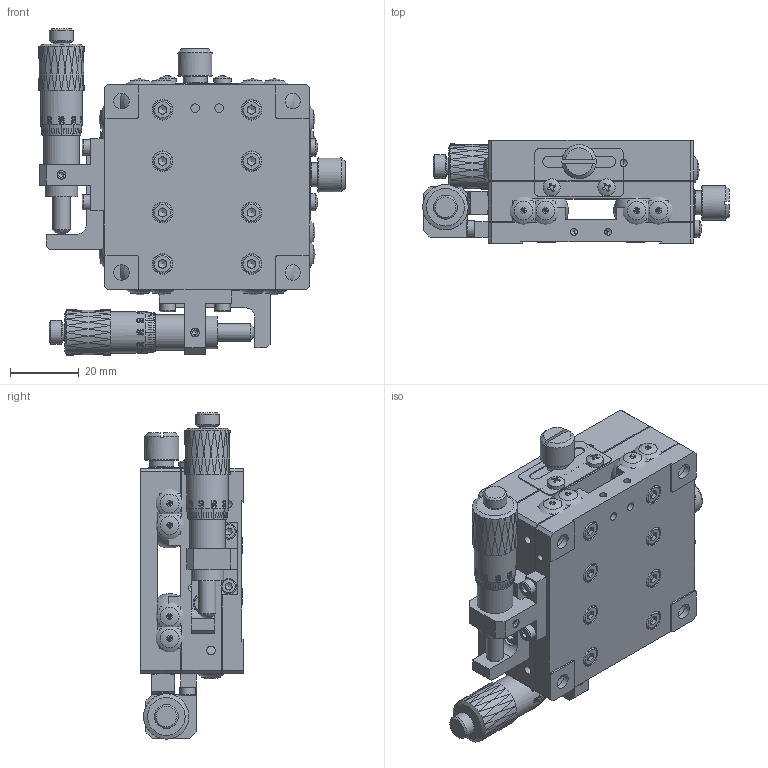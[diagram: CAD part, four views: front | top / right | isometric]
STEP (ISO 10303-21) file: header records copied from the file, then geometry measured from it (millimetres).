
FILE_DESCRIPTION (( 'STEP AP203' ), '1' );
FILE_NAME ('BPMB60.STEP', '2024-07-25T11:21:25', ( 'Windows User' ), ( 'P R C' ), 'SwSTEP 2.0', 'SolidWorks 2024', '' );
FILE_SCHEMA (( 'CONFIG_CONTROL_DESIGN' ));
Products named in the file (1): BPMB60
Bounding box: 89.4 x 30 x 95.2 mm (x, y, z)
Volume: 90928.5 mm3; surface area: 79588.1 mm2
Topology: 56 solids, 56 shells, 2872 faces, 7084 edges, 4553 vertices
Faces by surface type: plane 1083, bspline 790, cylinder 574, cone 376, torus 43, sphere 6
Full cylindrical faces by diameter (mm): 1.6 x8, 2.05 x28, 2.5 x34, 2.55 x32, 2.95 x18, 3 x29, 3.1 x4, 3.2 x4, 3.3 x9, 3.4 x24, 4.4 x32, 4.5 x8, 5 x10, 5.5 x23, 5.8 x4, 6 x16, 6.1 x8, 7 x4, 8 x4, 8.5 x2, 9.5 x4, 10 x2, 10.5 x2, 12.2 x2
Entity records: 143966 total; most frequent: CARTESIAN_POINT 86820, ORIENTED_EDGE 12618, DIRECTION 8815, EDGE_CURVE 6309, VERTEX_POINT 4321, EDGE_LOOP 3860, AXIS2_PLACEMENT_3D 3430, FACE_OUTER_BOUND 3180
